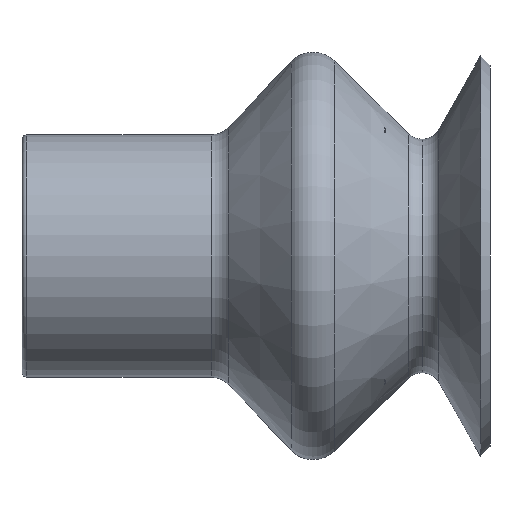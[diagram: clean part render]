
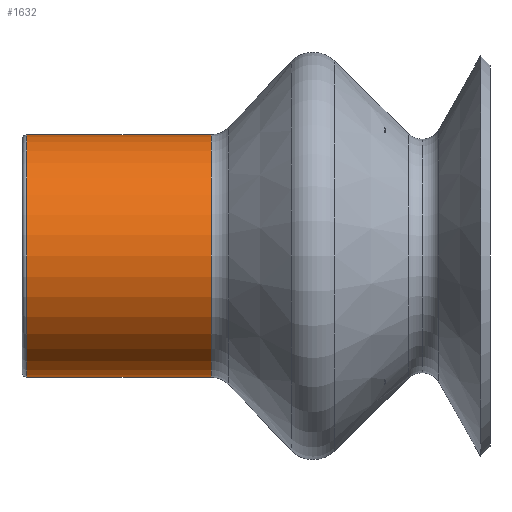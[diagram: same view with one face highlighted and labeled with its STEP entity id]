
A CAD part, left-side view. The second image highlights one B-rep face of the part: STEP entity #1632.
In plain terms, the highlighted cylindrical face has radius 5 mm (diameter 10 mm), a partial arc.
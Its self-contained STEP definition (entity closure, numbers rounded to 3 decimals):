
#1 = CARTESIAN_POINT ( 'NONE',  ( 0., -7.8, 0. ) ) ;
#2 = EDGE_CURVE ( 'NONE', #1864, #599, #793, .T. ) ;
#23 = AXIS2_PLACEMENT_3D ( 'NONE', #1, #733, #597 ) ;
#77 = EDGE_CURVE ( 'NONE', #861, #1864, #94, .T. ) ;
#94 = CIRCLE ( 'NONE', #23, 5. ) ;
#105 = CARTESIAN_POINT ( 'NONE',  ( 0., 53.08, 5. ) ) ;
#112 = DIRECTION ( 'NONE',  ( 0., 1., 0. ) ) ;
#167 = DIRECTION ( 'NONE',  ( 0., -1., 0. ) ) ;
#219 = DIRECTION ( 'NONE',  ( 0., 1., 0. ) ) ;
#288 = EDGE_CURVE ( 'NONE', #599, #1328, #1369, .T. ) ;
#337 = DIRECTION ( 'NONE',  ( 0., 1., 0. ) ) ;
#355 = EDGE_CURVE ( 'NONE', #861, #1328, #922, .T. ) ;
#405 = ORIENTED_EDGE ( 'NONE', *, *, #2, .T. ) ;
#429 = CARTESIAN_POINT ( 'NONE',  ( 0., -0.2, -5. ) ) ;
#470 = CARTESIAN_POINT ( 'NONE',  ( 0., -0.2, 0. ) ) ;
#500 = CARTESIAN_POINT ( 'NONE',  ( 0., 53.08, 0. ) ) ;
#565 = AXIS2_PLACEMENT_3D ( 'NONE', #470, #167, #1622 ) ;
#597 = DIRECTION ( 'NONE',  ( 0., 0., 1. ) ) ;
#599 = VERTEX_POINT ( 'NONE', #1343 ) ;
#649 = CARTESIAN_POINT ( 'NONE',  ( 0., 53.08, -5. ) ) ;
#733 = DIRECTION ( 'NONE',  ( 0., 1., 0. ) ) ;
#765 = EDGE_LOOP ( 'NONE', ( #1148, #1434, #405, #1463 ) ) ;
#793 = LINE ( 'NONE', #105, #1768 ) ;
#861 = VERTEX_POINT ( 'NONE', #1710 ) ;
#922 = LINE ( 'NONE', #649, #1483 ) ;
#965 = FACE_OUTER_BOUND ( 'NONE', #765, .T. ) ;
#1036 = AXIS2_PLACEMENT_3D ( 'NONE', #500, #219, #1379 ) ;
#1148 = ORIENTED_EDGE ( 'NONE', *, *, #355, .F. ) ;
#1328 = VERTEX_POINT ( 'NONE', #429 ) ;
#1343 = CARTESIAN_POINT ( 'NONE',  ( 0., -0.2, 5. ) ) ;
#1348 = CARTESIAN_POINT ( 'NONE',  ( 0., -7.8, 5. ) ) ;
#1369 = CIRCLE ( 'NONE', #565, 5. ) ;
#1379 = DIRECTION ( 'NONE',  ( 0., 0., 1. ) ) ;
#1434 = ORIENTED_EDGE ( 'NONE', *, *, #77, .T. ) ;
#1463 = ORIENTED_EDGE ( 'NONE', *, *, #288, .T. ) ;
#1483 = VECTOR ( 'NONE', #337, 1000. ) ;
#1622 = DIRECTION ( 'NONE',  ( 0., 0., 1. ) ) ;
#1632 = ADVANCED_FACE ( 'NONE', ( #965 ), #1689, .T. ) ;
#1689 = CYLINDRICAL_SURFACE ( 'NONE', #1036, 5. ) ;
#1710 = CARTESIAN_POINT ( 'NONE',  ( 0., -7.8, -5. ) ) ;
#1768 = VECTOR ( 'NONE', #112, 1000. ) ;
#1864 = VERTEX_POINT ( 'NONE', #1348 ) ;
